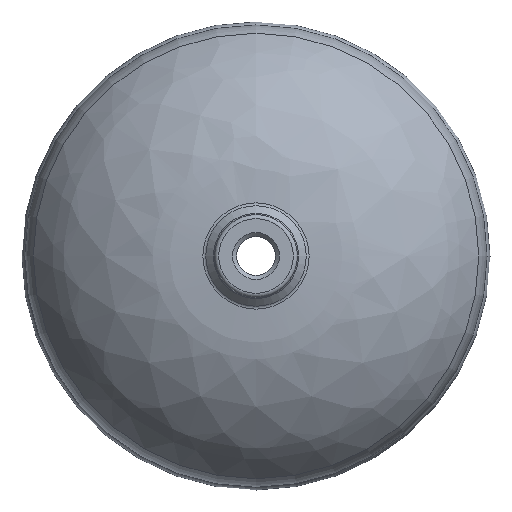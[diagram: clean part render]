
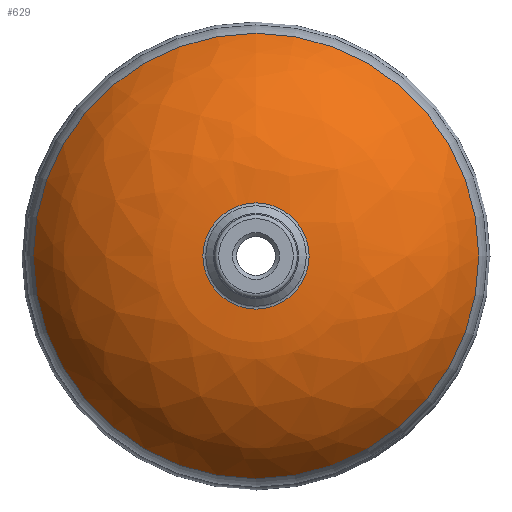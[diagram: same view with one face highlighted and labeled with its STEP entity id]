
A CAD part, front view. The second image highlights one B-rep face of the part: STEP entity #629.
In plain terms, the highlighted free-form (B-spline) face has degree [2, 2] with [3, 9] control points.
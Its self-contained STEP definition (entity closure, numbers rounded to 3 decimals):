
#15=(
BOUNDED_SURFACE()
B_SPLINE_SURFACE(2,2,((#1116,#1117,#1118,#1119,#1120,#1121,#1122,#1123,
#1124),(#1125,#1126,#1127,#1128,#1129,#1130,#1131,#1132,#1133),(#1134,#1135,
#1136,#1137,#1138,#1139,#1140,#1141,#1142)),.UNSPECIFIED.,.F.,.T.,.F.)
B_SPLINE_SURFACE_WITH_KNOTS((3,3),(3,2,2,2,3),(0.529,1.563),
(-3.142,-1.571,0.,1.571,3.142),
 .UNSPECIFIED.)
GEOMETRIC_REPRESENTATION_ITEM()
RATIONAL_B_SPLINE_SURFACE(((1.,0.707,1.,0.707,1.,
0.707,1.,0.707,1.),(0.869,0.615,
0.869,0.615,0.869,0.615,
0.869,0.615,0.869),(1.,0.707,
1.,0.707,1.,0.707,1.,0.707,1.)))
REPRESENTATION_ITEM('')
SURFACE()
);
#74=FACE_OUTER_BOUND('',#105,.T.);
#105=EDGE_LOOP('',(#446,#447,#448,#449,#450,#451));
#152=CIRCLE('',#700,26.315);
#157=CIRCLE('',#705,26.315);
#161=CIRCLE('',#710,98.347);
#162=CIRCLE('',#711,110.397);
#163=CIRCLE('',#712,110.397);
#233=VERTEX_POINT('',#1097);
#234=VERTEX_POINT('',#1098);
#241=VERTEX_POINT('',#1143);
#242=VERTEX_POINT('',#1145);
#311=EDGE_CURVE('',#233,#234,#152,.T.);
#316=EDGE_CURVE('',#234,#233,#157,.T.);
#321=EDGE_CURVE('',#234,#241,#161,.T.);
#322=EDGE_CURVE('',#242,#241,#162,.T.);
#323=EDGE_CURVE('',#241,#242,#163,.T.);
#446=ORIENTED_EDGE('',*,*,#311,.F.);
#447=ORIENTED_EDGE('',*,*,#316,.F.);
#448=ORIENTED_EDGE('',*,*,#321,.T.);
#449=ORIENTED_EDGE('',*,*,#322,.F.);
#450=ORIENTED_EDGE('',*,*,#323,.F.);
#451=ORIENTED_EDGE('',*,*,#321,.F.);
#629=ADVANCED_FACE('',(#74),#15,.F.);
#700=AXIS2_PLACEMENT_3D('',#1099,#845,#846);
#705=AXIS2_PLACEMENT_3D('',#1107,#855,#856);
#710=AXIS2_PLACEMENT_3D('',#1144,#866,#867);
#711=AXIS2_PLACEMENT_3D('',#1146,#868,#869);
#712=AXIS2_PLACEMENT_3D('',#1147,#870,#871);
#845=DIRECTION('center_axis',(0.,-1.,0.));
#846=DIRECTION('ref_axis',(-1.,0.,0.));
#855=DIRECTION('center_axis',(0.,-1.,0.));
#856=DIRECTION('ref_axis',(-1.,0.,0.));
#866=DIRECTION('center_axis',(-1.,0.,0.));
#867=DIRECTION('ref_axis',(0.,0.,1.));
#868=DIRECTION('center_axis',(0.,1.,0.));
#869=DIRECTION('ref_axis',(-1.,0.,0.));
#870=DIRECTION('center_axis',(0.,1.,0.));
#871=DIRECTION('ref_axis',(-1.,0.,0.));
#1097=CARTESIAN_POINT('',(26.315,-171.497,0.));
#1098=CARTESIAN_POINT('',(0.,-171.497,26.315));
#1099=CARTESIAN_POINT('Origin',(0.,-171.497,0.));
#1107=CARTESIAN_POINT('Origin',(0.,-171.497,0.));
#1116=CARTESIAN_POINT('Ctrl Pts',(0.,-122.798,110.397));
#1117=CARTESIAN_POINT('Ctrl Pts',(-110.397,-122.798,110.397));
#1118=CARTESIAN_POINT('Ctrl Pts',(-110.397,-122.798,0.));
#1119=CARTESIAN_POINT('Ctrl Pts',(-110.397,-122.798,-110.397));
#1120=CARTESIAN_POINT('Ctrl Pts',(0.,-122.798,-110.397));
#1121=CARTESIAN_POINT('Ctrl Pts',(110.397,-122.798,-110.397));
#1122=CARTESIAN_POINT('Ctrl Pts',(110.397,-122.798,0.));
#1123=CARTESIAN_POINT('Ctrl Pts',(110.397,-122.798,110.397));
#1124=CARTESIAN_POINT('Ctrl Pts',(0.,-122.798,110.397));
#1125=CARTESIAN_POINT('Ctrl Pts',(0.,-171.033,82.19));
#1126=CARTESIAN_POINT('Ctrl Pts',(-82.19,-171.033,82.19));
#1127=CARTESIAN_POINT('Ctrl Pts',(-82.19,-171.033,0.));
#1128=CARTESIAN_POINT('Ctrl Pts',(-82.19,-171.033,-82.19));
#1129=CARTESIAN_POINT('Ctrl Pts',(0.,-171.033,-82.19));
#1130=CARTESIAN_POINT('Ctrl Pts',(82.19,-171.033,-82.19));
#1131=CARTESIAN_POINT('Ctrl Pts',(82.19,-171.033,0.));
#1132=CARTESIAN_POINT('Ctrl Pts',(82.19,-171.033,82.19));
#1133=CARTESIAN_POINT('Ctrl Pts',(0.,-171.033,82.19));
#1134=CARTESIAN_POINT('Ctrl Pts',(0.,-171.497,26.315));
#1135=CARTESIAN_POINT('Ctrl Pts',(-26.315,-171.497,26.315));
#1136=CARTESIAN_POINT('Ctrl Pts',(-26.315,-171.497,0.));
#1137=CARTESIAN_POINT('Ctrl Pts',(-26.315,-171.497,-26.315));
#1138=CARTESIAN_POINT('Ctrl Pts',(0.,-171.497,-26.315));
#1139=CARTESIAN_POINT('Ctrl Pts',(26.315,-171.497,-26.315));
#1140=CARTESIAN_POINT('Ctrl Pts',(26.315,-171.497,0.));
#1141=CARTESIAN_POINT('Ctrl Pts',(26.315,-171.497,26.315));
#1142=CARTESIAN_POINT('Ctrl Pts',(0.,-171.497,26.315));
#1143=CARTESIAN_POINT('',(0.,-122.798,110.397));
#1144=CARTESIAN_POINT('Origin',(0.,-73.153,
25.5));
#1145=CARTESIAN_POINT('',(110.397,-122.798,0.));
#1146=CARTESIAN_POINT('Origin',(0.,-122.798,0.));
#1147=CARTESIAN_POINT('Origin',(0.,-122.798,0.));
